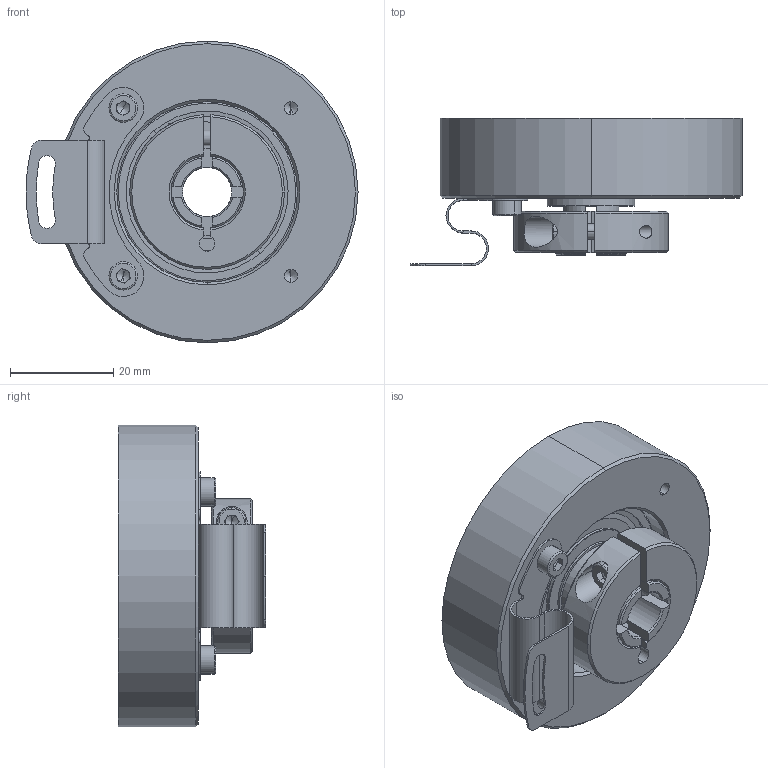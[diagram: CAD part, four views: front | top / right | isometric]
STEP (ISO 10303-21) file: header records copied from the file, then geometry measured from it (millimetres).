
FILE_DESCRIPTION (( 'STEP AP214' ), '1' );
FILE_NAME ('drawing-ucd-hst0-q5b-n.STEP', '2017-02-21T12:51:38', ( '' ), ( '' ), 'SwSTEP 2.0', 'SolidWorks 2015', '' );
FILE_SCHEMA (( 'AUTOMOTIVE_DESIGN' ));
Length unit declared in the file: millimetre
Products named in the file (1): drawing-ucd-hst0-q5b-n
Bounding box: 64.35 x 28.6 x 58.5 mm (x, y, z)
Volume: 39801.1 mm3; surface area: 23768.7 mm2
Topology: 24 solids, 24 shells, 376 faces, 882 edges, 512 vertices
Faces by surface type: cylinder 118, plane 106, cone 80, bspline 60, torus 12
Entity records: 16097 total; most frequent: CARTESIAN_POINT 3411, DIRECTION 1812, ORIENTED_EDGE 1644, EDGE_CURVE 822, AXIS2_PLACEMENT_3D 739, VERTEX_POINT 512, CIRCLE 422, EDGE_LOOP 422
